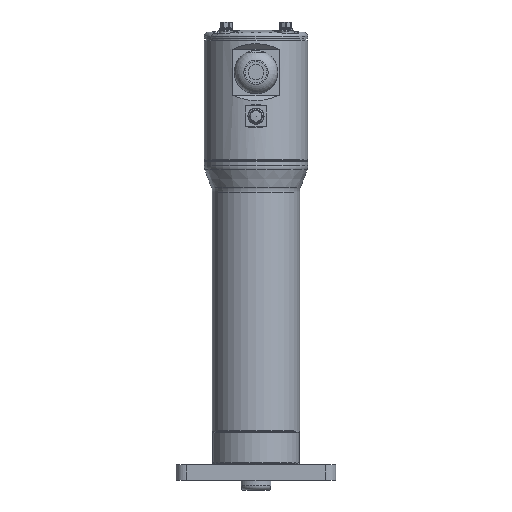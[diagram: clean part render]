
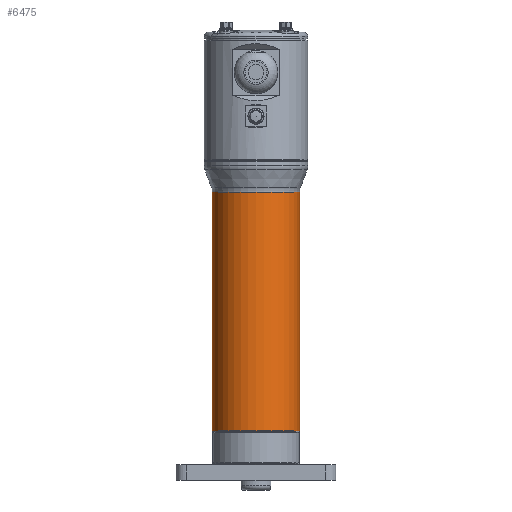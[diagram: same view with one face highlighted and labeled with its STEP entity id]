
A CAD part, front view. The second image highlights one B-rep face of the part: STEP entity #6475.
In plain terms, the highlighted cylindrical face has radius 32 mm (diameter 64 mm), a full revolution.
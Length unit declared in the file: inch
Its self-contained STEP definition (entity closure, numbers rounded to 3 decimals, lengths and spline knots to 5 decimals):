
#85 = EDGE_CURVE ( 'NONE', #755, #755, #3641, .T. ) ;
#499 = CARTESIAN_POINT ( 'NONE',  ( 0., 0., -7.89687 ) ) ;
#569 = DIRECTION ( 'NONE',  ( 1., 0., 0. ) ) ;
#755 = VERTEX_POINT ( 'NONE', #4817 ) ;
#1598 = CYLINDRICAL_SURFACE ( 'NONE', #12972, 1.25984 ) ;
#2496 = FACE_OUTER_BOUND ( 'NONE', #11754, .T. ) ;
#3118 = EDGE_LOOP ( 'NONE', ( #6879 ) ) ;
#3443 = AXIS2_PLACEMENT_3D ( 'NONE', #499, #6692, #13094 ) ;
#3641 = CIRCLE ( 'NONE', #12800, 1.25984 ) ;
#4817 = CARTESIAN_POINT ( 'NONE',  ( 1.25984, 0., -0.99689 ) ) ;
#5222 = DIRECTION ( 'NONE',  ( 0., 0., 1. ) ) ;
#6045 = DIRECTION ( 'NONE',  ( 1., 0., 0. ) ) ;
#6475 = ADVANCED_FACE ( 'NONE', ( #11992, #2496 ), #1598, .T. ) ;
#6516 = ORIENTED_EDGE ( 'NONE', *, *, #85, .F. ) ;
#6692 = DIRECTION ( 'NONE',  ( 0., 0., 1. ) ) ;
#6879 = ORIENTED_EDGE ( 'NONE', *, *, #8487, .T. ) ;
#7776 = CARTESIAN_POINT ( 'NONE',  ( 0., 0., -7.30701 ) ) ;
#8233 = CARTESIAN_POINT ( 'NONE',  ( 0., 0., -0.99689 ) ) ;
#8487 = EDGE_CURVE ( 'NONE', #10453, #10453, #10638, .T. ) ;
#9168 = CARTESIAN_POINT ( 'NONE',  ( 1.25984, 0., -7.89687 ) ) ;
#10453 = VERTEX_POINT ( 'NONE', #9168 ) ;
#10638 = CIRCLE ( 'NONE', #3443, 1.25984 ) ;
#10906 = DIRECTION ( 'NONE',  ( 0., 0., 1. ) ) ;
#11754 = EDGE_LOOP ( 'NONE', ( #6516 ) ) ;
#11992 = FACE_OUTER_BOUND ( 'NONE', #3118, .T. ) ;
#12800 = AXIS2_PLACEMENT_3D ( 'NONE', #8233, #5222, #6045 ) ;
#12972 = AXIS2_PLACEMENT_3D ( 'NONE', #7776, #10906, #569 ) ;
#13094 = DIRECTION ( 'NONE',  ( 1., 0., 0. ) ) ;
